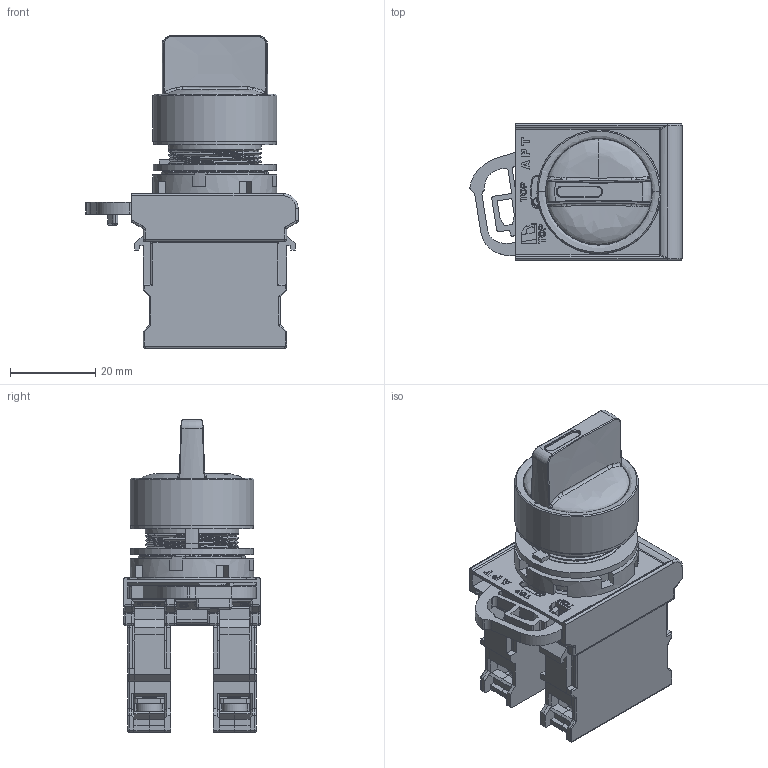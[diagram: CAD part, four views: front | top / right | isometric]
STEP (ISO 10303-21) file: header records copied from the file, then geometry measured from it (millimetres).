
FILE_DESCRIPTION(/* description */ ('CAx-IF Rec.Pracs.---Representation and Presentation of Product Manufacturing Information (PMI)---4.0---2014-10-13','CAx-IF Rec.Pracs.---3D Tessellated Geometry---0.4---2014-09-14','2;1'),/* implementation_level */ '2;1');
FILE_NAME(/* name */ '短柄旋钮 _stp',/* time_stamp */ '2021-06-17T16:48:50+08:00',/* author */ (''),/* organization */ (''),/* preprocessor_version */ 'ST-DEVELOPER v16.7',/* originating_system */ $,/* authorisation */ $);
FILE_SCHEMA (('AP242_MANAGED_MODEL_BASED_3D_ENGINEERING_MIM_LF { 1 0 10303 442 20130219 1 4 }'));
Products named in the file (1): 短柄旋钮 _stp
Bounding box: 49.72 x 32 x 73.2 mm (x, y, z)
Volume: 45380.8 mm3; surface area: 35849.7 mm2
Topology: 24 solids, 30 shells, 2573 faces, 6454 edges, 4024 vertices
Faces by surface type: plane 1717, cylinder 438, torus 208, bspline 147, sphere 40, cone 23
Full cylindrical faces by diameter (mm): 1.4 x4, 2 x1, 2.6 x1, 3.5 x42, 3.6 x2, 4.2 x1, 6 x4, 17.6 x1, 18 x1, 20.6 x1, 20.638 x1, 20.8 x1, 22 x1, 22.5 x1, 24.7 x1, 25 x1, 26.8 x1, 28.7 x1, 28.8 x1, 29 x2
Entity records: 91438 total; most frequent: CARTESIAN_POINT 30960, ORIENTED_EDGE 12160, DIRECTION 11454, EDGE_CURVE 6080, LINE 4498, VECTOR 4498, VERTEX_POINT 3916, AXIS2_PLACEMENT_3D 3478
